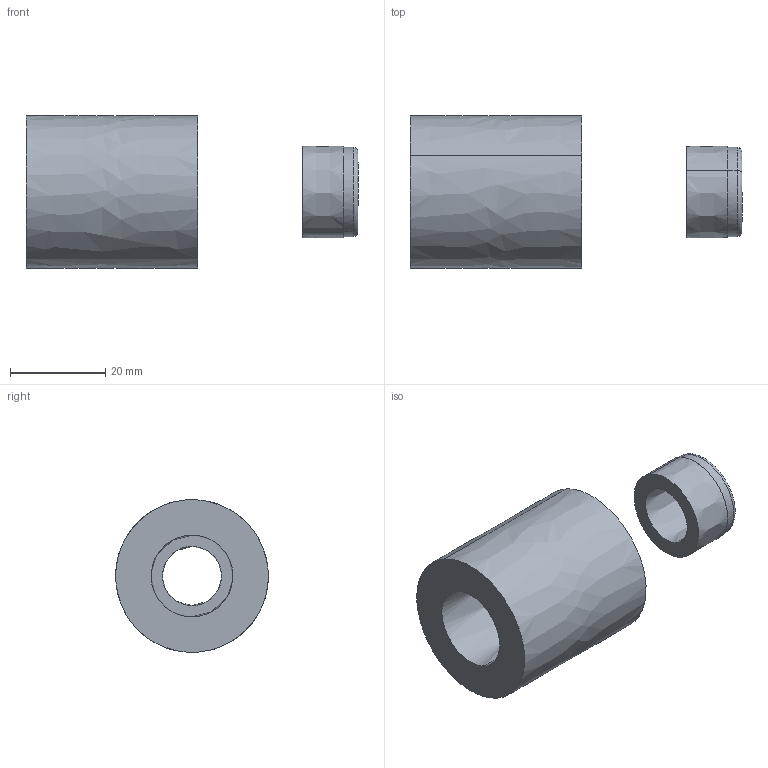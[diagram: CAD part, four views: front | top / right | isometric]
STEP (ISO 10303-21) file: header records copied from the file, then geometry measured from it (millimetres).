
FILE_DESCRIPTION (( 'STEP AP214' ), '1' );
FILE_NAME ('KTU-200WK-GS-70.STEP', '2018-08-30T08:08:00', ( '' ), ( '' ), 'SwSTEP 2.0', 'SolidWorks 2010', '' );
FILE_SCHEMA (( 'AUTOMOTIVE_DESIGN' ));
Length unit declared in the file: millimetre
Products named in the file (1): KTU-200WK-GS-70
Bounding box: 69.6 x 31.99 x 32 mm (x, y, z)
Volume: 22497.8 mm3; surface area: 8159.5 mm2
Topology: 2 solids, 2 shells, 17 faces, 56 edges, 44 vertices
Faces by surface type: bspline 12, plane 5
Entity records: 2329 total; most frequent: CARTESIAN_POINT 1894, ORIENTED_EDGE 112, EDGE_CURVE 56, B_SPLINE_CURVE_WITH_KNOTS 46, VERTEX_POINT 44, DIRECTION 22, EDGE_LOOP 22, FACE_OUTER_BOUND 17
